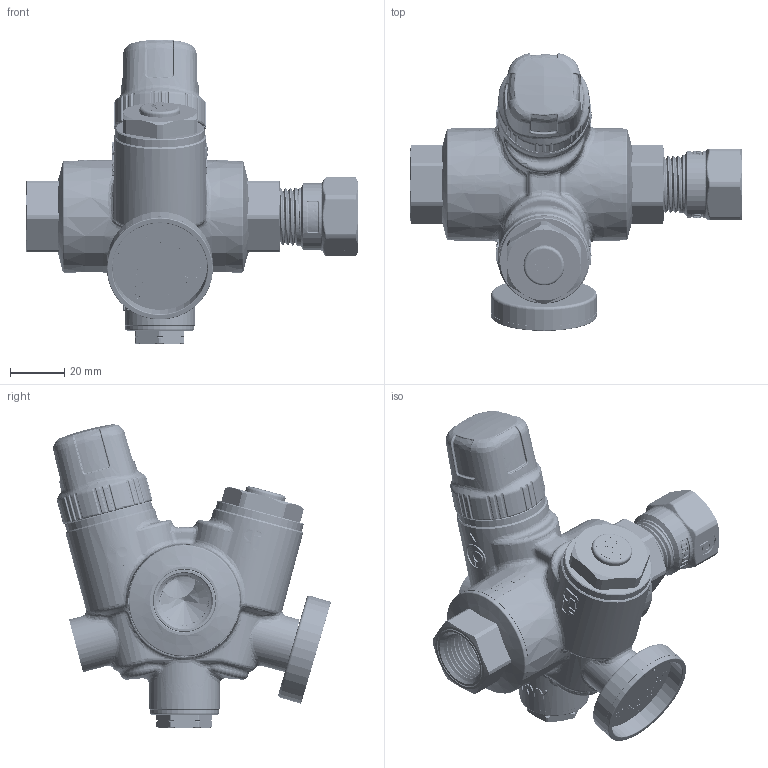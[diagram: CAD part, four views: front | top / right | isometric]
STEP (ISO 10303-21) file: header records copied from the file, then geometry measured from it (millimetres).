
FILE_DESCRIPTION(('Open CASCADE Model'),'2;1');
FILE_NAME('Open CASCADE Shape Model','2022-01-26T10:49:54',('Author'),( 'Open CASCADE'),'Open CASCADE STEP processor 7.3','Open CASCADE 7.3' ,'Unknown');
FILE_SCHEMA(('AUTOMOTIVE_DESIGN { 1 0 10303 214 1 1 1 1 }'));
Length unit declared in the file: millimetre
Products named in the file (29): Open CASCADE STEP translator 7.3 1; Open CASCADE STEP translator 7.3 1.1; Open CASCADE STEP translator 7.3 1.1.1; Open CASCADE STEP translator 7.3 1.1.2; Open CASCADE STEP translator 7.3 1.1.3; Open CASCADE STEP translator 7.3 1.2; Open CASCADE STEP translator 7.3 1.2.1; Open CASCADE STEP translator 7.3 1.2.2; Open CASCADE STEP translator 7.3 1.2.3; Open CASCADE STEP translator 7.3 1.2.4; Open CASCADE STEP translator 7.3 1.2.5; Open CASCADE STEP translator 7.3 1.2.6; Open CASCADE STEP translator 7.3 1.2.7; Open CASCADE STEP translator 7.3 1.2.8; Open CASCADE STEP translator 7.3 1.2.9; Open CASCADE STEP translator 7.3 1.2.10; Open CASCADE STEP translator 7.3 1.2.11; Open CASCADE STEP translator 7.3 1.2.12; Open CASCADE STEP translator 7.3 1.2.13; Open CASCADE STEP translator 7.3 1.2.14; Open CASCADE STEP translator 7.3 1.2.15; Open CASCADE STEP translator 7.3 1.2.16; Open CASCADE STEP translator 7.3 1.2.17; Open CASCADE STEP translator 7.3 1.2.18; Open CASCADE STEP translator 7.3 1.2.19; Open CASCADE STEP translator 7.3 1.2.20; Open CASCADE STEP translator 7.3 1.2.21; Open CASCADE STEP translator 7.3 1.2.22; Open CASCADE STEP translator 7.3 1.2.23
Assembly tree (28 placements, depth 3):
  Open CASCADE STEP translator 7.3 1
    Open CASCADE STEP translator 7.3 1.1
      Open CASCADE STEP translator 7.3 1.1.1
      Open CASCADE STEP translator 7.3 1.1.2
      Open CASCADE STEP translator 7.3 1.1.3
    Open CASCADE STEP translator 7.3 1.2
      Open CASCADE STEP translator 7.3 1.2.1
      Open CASCADE STEP translator 7.3 1.2.2
      Open CASCADE STEP translator 7.3 1.2.3
      Open CASCADE STEP translator 7.3 1.2.4
      Open CASCADE STEP translator 7.3 1.2.5
      Open CASCADE STEP translator 7.3 1.2.6
      Open CASCADE STEP translator 7.3 1.2.7
      Open CASCADE STEP translator 7.3 1.2.8
      Open CASCADE STEP translator 7.3 1.2.9
      Open CASCADE STEP translator 7.3 1.2.10
      Open CASCADE STEP translator 7.3 1.2.11
      Open CASCADE STEP translator 7.3 1.2.12
      Open CASCADE STEP translator 7.3 1.2.13
      Open CASCADE STEP translator 7.3 1.2.14
      Open CASCADE STEP translator 7.3 1.2.15
      Open CASCADE STEP translator 7.3 1.2.16
      Open CASCADE STEP translator 7.3 1.2.17
      Open CASCADE STEP translator 7.3 1.2.18
      Open CASCADE STEP translator 7.3 1.2.19
      Open CASCADE STEP translator 7.3 1.2.20
      Open CASCADE STEP translator 7.3 1.2.21
      Open CASCADE STEP translator 7.3 1.2.22
      Open CASCADE STEP translator 7.3 1.2.23
Bounding box: 122 x 102.01 x 111.79 mm (x, y, z)
Volume: 149960.8 mm3; surface area: 103619.9 mm2
Topology: 26 solids, 27 shells, 6183 faces, 15930 edges, 10024 vertices
Faces by surface type: extrusion 1685, plane 1407, cylinder 1220, bspline 789, cone 513, torus 427, sphere 90, revolution 52
Entity records: 682368 total; most frequent: CARTESIAN_POINT 403689, DIRECTION 37466, ORIENTED_EDGE 31824, PCURVE 31824, DEFINITIONAL_REPRESENTATION 31824, B_SPLINE_CURVE_WITH_KNOTS 24386, VECTOR 21296, LINE 19611
